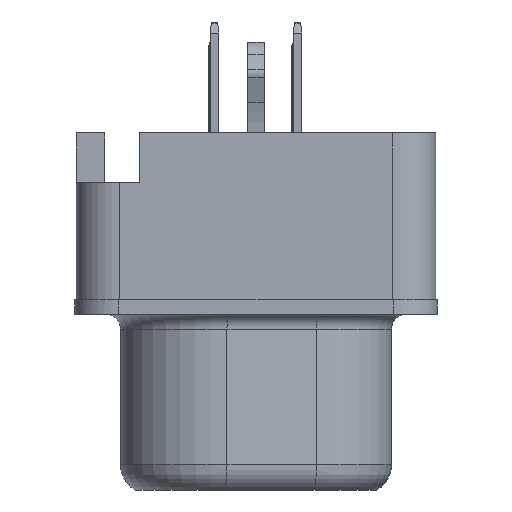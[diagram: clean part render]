
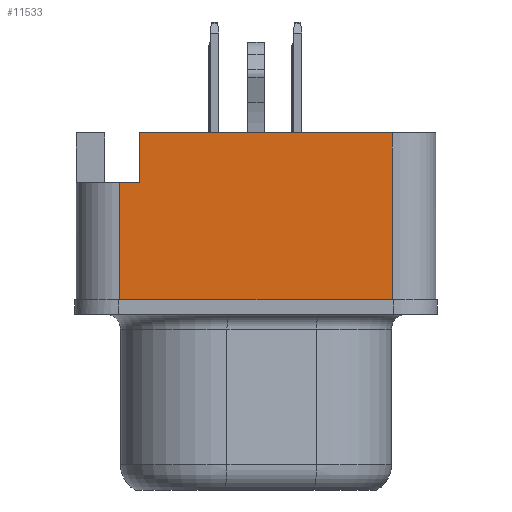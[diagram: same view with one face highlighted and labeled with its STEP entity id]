
A CAD part, left-side view. The second image highlights one B-rep face of the part: STEP entity #11533.
In plain terms, the highlighted planar face has unit normal (-1, 0, 0).
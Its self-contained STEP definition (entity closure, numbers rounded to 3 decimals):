
#11533=ADVANCED_FACE('',(#13366),#12369,.T.);
#12369=PLANE('',#32413);
#13366=FACE_OUTER_BOUND('',#14722,.T.);
#14722=EDGE_LOOP('',(#19785,#19786,#19787,#19788,#19789,#19790));
#19785=ORIENTED_EDGE('',*,*,#26198,.T.);
#19786=ORIENTED_EDGE('',*,*,#26197,.F.);
#19787=ORIENTED_EDGE('',*,*,#26184,.F.);
#19788=ORIENTED_EDGE('',*,*,#26189,.F.);
#19789=ORIENTED_EDGE('',*,*,#26199,.T.);
#19790=ORIENTED_EDGE('',*,*,#26200,.T.);
#23319=VERTEX_POINT('',#50737);
#23320=VERTEX_POINT('',#50738);
#23324=VERTEX_POINT('',#50747);
#23326=VERTEX_POINT('',#50756);
#23329=VERTEX_POINT('',#50765);
#23330=VERTEX_POINT('',#50767);
#26184=EDGE_CURVE('',#23319,#23320,#28124,.T.);
#26189=EDGE_CURVE('',#23324,#23319,#28128,.T.);
#26197=EDGE_CURVE('',#23320,#23326,#28135,.T.);
#26198=EDGE_CURVE('',#23329,#23326,#28136,.T.);
#26199=EDGE_CURVE('',#23324,#23330,#28137,.T.);
#26200=EDGE_CURVE('',#23330,#23329,#28138,.T.);
#28124=LINE('',#50736,#29490);
#28128=LINE('',#50748,#29494);
#28135=LINE('',#50762,#29501);
#28136=LINE('',#50764,#29502);
#28137=LINE('',#50766,#29503);
#28138=LINE('',#50768,#29504);
#29490=VECTOR('',#36901,1.);
#29494=VECTOR('',#36909,1.);
#29501=VECTOR('',#36922,1.);
#29502=VECTOR('',#36925,1.);
#29503=VECTOR('',#36926,1.);
#29504=VECTOR('',#36927,1.);
#32413=AXIS2_PLACEMENT_3D('',#50769,#36928,#36929);
#36901=DIRECTION('',(0.,0.,1.));
#36909=DIRECTION('',(0.,-1.,0.));
#36922=DIRECTION('',(0.,-1.,0.));
#36925=DIRECTION('',(0.,0.,1.));
#36926=DIRECTION('',(0.,0.,-1.));
#36927=DIRECTION('',(0.,-1.,0.));
#36928=DIRECTION('',(-1.,0.,0.));
#36929=DIRECTION('',(0.,-1.,0.));
#50736=CARTESIAN_POINT('',(-11.49,3.97,0.));
#50737=CARTESIAN_POINT('',(-11.49,3.97,4.));
#50738=CARTESIAN_POINT('',(-11.49,3.97,5.7));
#50747=CARTESIAN_POINT('',(-11.49,4.65,4.));
#50748=CARTESIAN_POINT('',(-11.49,6.15,4.));
#50756=CARTESIAN_POINT('',(-11.49,-4.65,5.7));
#50762=CARTESIAN_POINT('',(-11.49,6.15,5.7));
#50764=CARTESIAN_POINT('',(-11.49,-4.65,0.));
#50765=CARTESIAN_POINT('',(-11.49,-4.65,0.));
#50766=CARTESIAN_POINT('',(-11.49,4.65,0.));
#50767=CARTESIAN_POINT('',(-11.49,4.65,0.));
#50768=CARTESIAN_POINT('',(-11.49,6.15,0.));
#50769=CARTESIAN_POINT('',(-11.49,6.15,0.));
